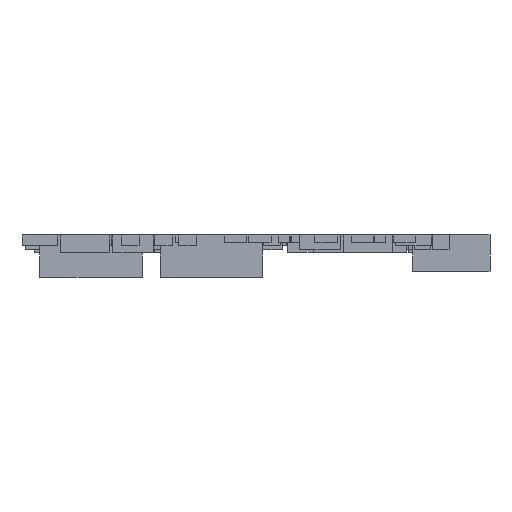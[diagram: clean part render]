
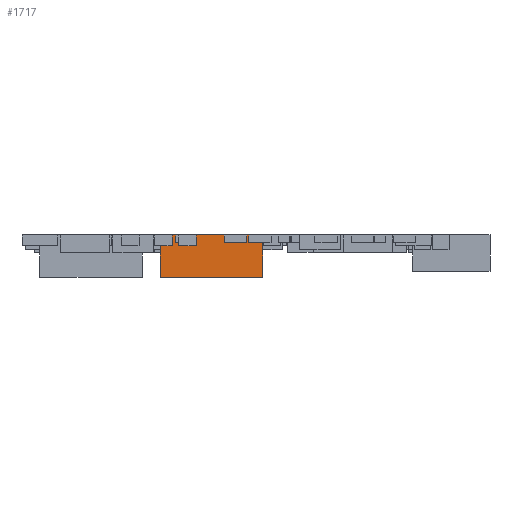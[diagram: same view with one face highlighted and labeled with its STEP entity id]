
A CAD part, front view. The second image highlights one B-rep face of the part: STEP entity #1717.
In plain terms, the highlighted planar face has unit normal (0, -1, 0).
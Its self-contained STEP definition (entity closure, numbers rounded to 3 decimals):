
#1501 = EDGE_CURVE('',#1502,#1504,#1506,.T.);
#1502 = VERTEX_POINT('',#1503);
#1503 = CARTESIAN_POINT('',(-8.25,-30.,2.2));
#1504 = VERTEX_POINT('',#1505);
#1505 = CARTESIAN_POINT('',(-8.25,-30.,5.7));
#1506 = SURFACE_CURVE('',#1507,(#1511,#1523),.PCURVE_S1.);
#1507 = LINE('',#1508,#1509);
#1508 = CARTESIAN_POINT('',(-8.25,-30.,2.2));
#1509 = VECTOR('',#1510,1.);
#1510 = DIRECTION('',(0.,0.,1.));
#1511 = PCURVE('',#1512,#1517);
#1512 = PLANE('',#1513);
#1513 = AXIS2_PLACEMENT_3D('',#1514,#1515,#1516);
#1514 = CARTESIAN_POINT('',(-8.25,-30.,2.2));
#1515 = DIRECTION('',(1.,0.,-0.));
#1516 = DIRECTION('',(0.,0.,1.));
#1517 = DEFINITIONAL_REPRESENTATION('',(#1518),#1522);
#1518 = LINE('',#1519,#1520);
#1519 = CARTESIAN_POINT('',(0.,0.));
#1520 = VECTOR('',#1521,1.);
#1521 = DIRECTION('',(1.,0.));
#1522 = ( GEOMETRIC_REPRESENTATION_CONTEXT(2) 
PARAMETRIC_REPRESENTATION_CONTEXT() REPRESENTATION_CONTEXT('2D SPACE',''
  ) );
#1523 = PCURVE('',#1524,#1529);
#1524 = PLANE('',#1525);
#1525 = AXIS2_PLACEMENT_3D('',#1526,#1527,#1528);
#1526 = CARTESIAN_POINT('',(-8.25,-30.,2.2));
#1527 = DIRECTION('',(-0.,1.,0.));
#1528 = DIRECTION('',(0.,0.,1.));
#1529 = DEFINITIONAL_REPRESENTATION('',(#1530),#1534);
#1530 = LINE('',#1531,#1532);
#1531 = CARTESIAN_POINT('',(0.,0.));
#1532 = VECTOR('',#1533,1.);
#1533 = DIRECTION('',(1.,0.));
#1534 = ( GEOMETRIC_REPRESENTATION_CONTEXT(2) 
PARAMETRIC_REPRESENTATION_CONTEXT() REPRESENTATION_CONTEXT('2D SPACE',''
  ) );
#1552 = PLANE('',#1553);
#1553 = AXIS2_PLACEMENT_3D('',#1554,#1555,#1556);
#1554 = CARTESIAN_POINT('',(-8.25,-30.,2.2));
#1555 = DIRECTION('',(0.,0.,1.));
#1556 = DIRECTION('',(1.,0.,-0.));
#1606 = PLANE('',#1607);
#1607 = AXIS2_PLACEMENT_3D('',#1608,#1609,#1610);
#1608 = CARTESIAN_POINT('',(-8.25,-30.,5.7));
#1609 = DIRECTION('',(0.,0.,1.));
#1610 = DIRECTION('',(1.,0.,-0.));
#1621 = EDGE_CURVE('',#1622,#1624,#1626,.T.);
#1622 = VERTEX_POINT('',#1623);
#1623 = CARTESIAN_POINT('',(0.25,-30.,2.2));
#1624 = VERTEX_POINT('',#1625);
#1625 = CARTESIAN_POINT('',(0.25,-30.,5.7));
#1626 = SURFACE_CURVE('',#1627,(#1631,#1643),.PCURVE_S1.);
#1627 = LINE('',#1628,#1629);
#1628 = CARTESIAN_POINT('',(0.25,-30.,2.2));
#1629 = VECTOR('',#1630,1.);
#1630 = DIRECTION('',(0.,0.,1.));
#1631 = PCURVE('',#1632,#1637);
#1632 = PLANE('',#1633);
#1633 = AXIS2_PLACEMENT_3D('',#1634,#1635,#1636);
#1634 = CARTESIAN_POINT('',(0.25,-30.,2.2));
#1635 = DIRECTION('',(1.,0.,-0.));
#1636 = DIRECTION('',(0.,0.,1.));
#1637 = DEFINITIONAL_REPRESENTATION('',(#1638),#1642);
#1638 = LINE('',#1639,#1640);
#1639 = CARTESIAN_POINT('',(0.,0.));
#1640 = VECTOR('',#1641,1.);
#1641 = DIRECTION('',(1.,0.));
#1642 = ( GEOMETRIC_REPRESENTATION_CONTEXT(2) 
PARAMETRIC_REPRESENTATION_CONTEXT() REPRESENTATION_CONTEXT('2D SPACE',''
  ) );
#1643 = PCURVE('',#1524,#1644);
#1644 = DEFINITIONAL_REPRESENTATION('',(#1645),#1649);
#1645 = LINE('',#1646,#1647);
#1646 = CARTESIAN_POINT('',(0.,8.5));
#1647 = VECTOR('',#1648,1.);
#1648 = DIRECTION('',(1.,0.));
#1649 = ( GEOMETRIC_REPRESENTATION_CONTEXT(2) 
PARAMETRIC_REPRESENTATION_CONTEXT() REPRESENTATION_CONTEXT('2D SPACE',''
  ) );
#1717 = ADVANCED_FACE('',(#1718),#1524,.F.);
#1718 = FACE_BOUND('',#1719,.F.);
#1719 = EDGE_LOOP('',(#1720,#1741,#1742,#1763));
#1720 = ORIENTED_EDGE('',*,*,#1721,.F.);
#1721 = EDGE_CURVE('',#1502,#1622,#1722,.T.);
#1722 = SURFACE_CURVE('',#1723,(#1727,#1734),.PCURVE_S1.);
#1723 = LINE('',#1724,#1725);
#1724 = CARTESIAN_POINT('',(-8.25,-30.,2.2));
#1725 = VECTOR('',#1726,1.);
#1726 = DIRECTION('',(1.,0.,-0.));
#1727 = PCURVE('',#1524,#1728);
#1728 = DEFINITIONAL_REPRESENTATION('',(#1729),#1733);
#1729 = LINE('',#1730,#1731);
#1730 = CARTESIAN_POINT('',(0.,0.));
#1731 = VECTOR('',#1732,1.);
#1732 = DIRECTION('',(0.,1.));
#1733 = ( GEOMETRIC_REPRESENTATION_CONTEXT(2) 
PARAMETRIC_REPRESENTATION_CONTEXT() REPRESENTATION_CONTEXT('2D SPACE',''
  ) );
#1734 = PCURVE('',#1552,#1735);
#1735 = DEFINITIONAL_REPRESENTATION('',(#1736),#1740);
#1736 = LINE('',#1737,#1738);
#1737 = CARTESIAN_POINT('',(0.,0.));
#1738 = VECTOR('',#1739,1.);
#1739 = DIRECTION('',(1.,0.));
#1740 = ( GEOMETRIC_REPRESENTATION_CONTEXT(2) 
PARAMETRIC_REPRESENTATION_CONTEXT() REPRESENTATION_CONTEXT('2D SPACE',''
  ) );
#1741 = ORIENTED_EDGE('',*,*,#1501,.T.);
#1742 = ORIENTED_EDGE('',*,*,#1743,.T.);
#1743 = EDGE_CURVE('',#1504,#1624,#1744,.T.);
#1744 = SURFACE_CURVE('',#1745,(#1749,#1756),.PCURVE_S1.);
#1745 = LINE('',#1746,#1747);
#1746 = CARTESIAN_POINT('',(-8.25,-30.,5.7));
#1747 = VECTOR('',#1748,1.);
#1748 = DIRECTION('',(1.,0.,-0.));
#1749 = PCURVE('',#1524,#1750);
#1750 = DEFINITIONAL_REPRESENTATION('',(#1751),#1755);
#1751 = LINE('',#1752,#1753);
#1752 = CARTESIAN_POINT('',(3.5,0.));
#1753 = VECTOR('',#1754,1.);
#1754 = DIRECTION('',(0.,1.));
#1755 = ( GEOMETRIC_REPRESENTATION_CONTEXT(2) 
PARAMETRIC_REPRESENTATION_CONTEXT() REPRESENTATION_CONTEXT('2D SPACE',''
  ) );
#1756 = PCURVE('',#1606,#1757);
#1757 = DEFINITIONAL_REPRESENTATION('',(#1758),#1762);
#1758 = LINE('',#1759,#1760);
#1759 = CARTESIAN_POINT('',(0.,0.));
#1760 = VECTOR('',#1761,1.);
#1761 = DIRECTION('',(1.,0.));
#1762 = ( GEOMETRIC_REPRESENTATION_CONTEXT(2) 
PARAMETRIC_REPRESENTATION_CONTEXT() REPRESENTATION_CONTEXT('2D SPACE',''
  ) );
#1763 = ORIENTED_EDGE('',*,*,#1621,.F.);
